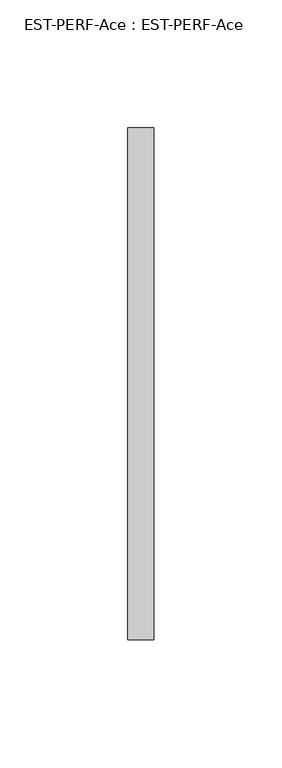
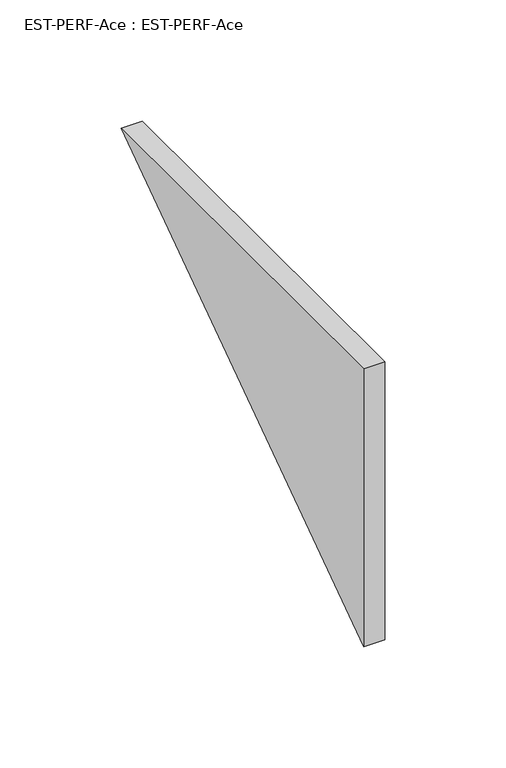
"""IFC4 building model written with IfcOpenShell, lengths in millimetres: beam geometry, EST-PERF-Ace : EST-PERF-Ace."""

from ifc_helpers import new_model, si_unit, frame, origin, place, context, project, spatial, polyline, outline, extrude, source, transform, mapped, element, save


def est_perf_ace_est_perf_ace_652393f0(model_context):
    return source(origin(), model_context, "Body", "SweptSolid", [
        extrude(outline(polyline([(0.0, -181.0830456), (0.0, -41.0830456), (200.0, -41.0830456), (0.0, -181.0830456)])), frame((-5.0, 0.0, 0.0), z_axis=(1.0, 0.0, 0.0), x_axis=(0.0, 1.0, 0.0)), (0.0, 0.0, 1.0), 10.0),
    ])


if __name__ == "__main__":
    model = new_model("IFC4")
    model_context = context("Model", 3, world=origin())
    ifc_project = project(units=[si_unit("LENGTHUNIT", "METRE", prefix="MILLI")], contexts=[model_context])
    site = spatial("IfcSite", under=ifc_project)
    building = spatial("IfcBuilding", under=site)
    placement = place(None, origin())
    est_perf_ace_est_perf_ace_shape = est_perf_ace_est_perf_ace_652393f0(model_context)
    element("IfcBeam", 1, ObjectType="EST-PERF-Ace : EST-PERF-Ace", at=placement, inside=building, context=model_context, shape_type="MappedRepresentation", body=[
        mapped(est_perf_ace_est_perf_ace_shape, transform((0.0, 0.0, 0.0), x_axis=(1.0, 0.0, 0.0), y_axis=(0.0, 1.0, 0.0), z_axis=(0.0, 0.0, 1.0))),
    ])
    save(model, "model.ifc")
